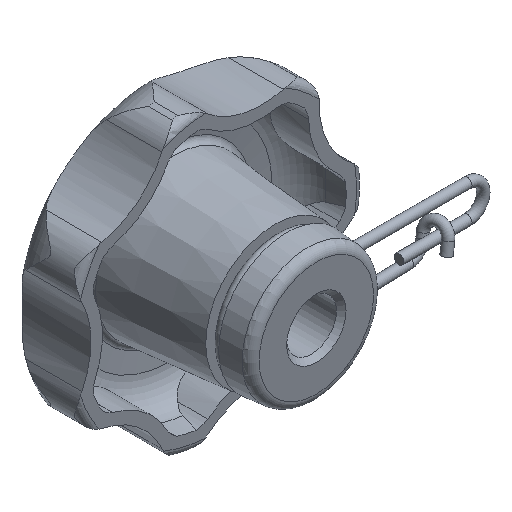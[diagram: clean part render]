
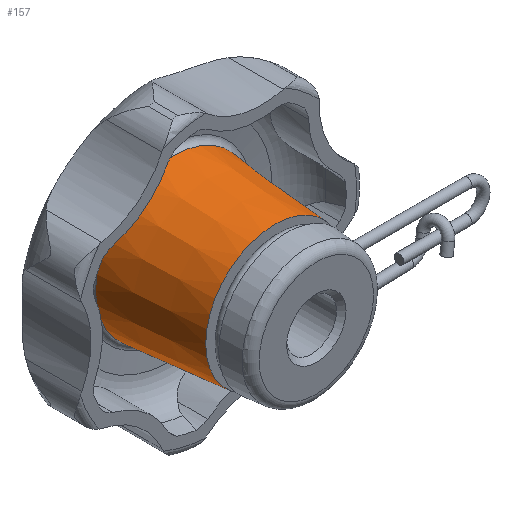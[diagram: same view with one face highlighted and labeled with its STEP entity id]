
A CAD part, isometric view. The second image highlights one B-rep face of the part: STEP entity #157.
In plain terms, the highlighted conical face has half-angle 5 degrees and reference radius 13.109 mm.
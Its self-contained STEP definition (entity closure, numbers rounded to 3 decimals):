
#157 = ADVANCED_FACE( '', ( #360, #361 ), #362, .T. );
#360 = FACE_BOUND( '', #576, .T. );
#361 = FACE_OUTER_BOUND( '', #577, .T. );
#362 = CONICAL_SURFACE( '', #578, 13.109, 0.087 );
#576 = EDGE_LOOP( '', ( #1249 ) );
#577 = EDGE_LOOP( '', ( #1250 ) );
#578 = AXIS2_PLACEMENT_3D( '', #1251, #1252, #1253 );
#1249 = ORIENTED_EDGE( '', *, *, #1540, .F. );
#1250 = ORIENTED_EDGE( '', *, *, #1539, .T. );
#1251 = CARTESIAN_POINT( '', ( 0., 24.053, 0. ) );
#1252 = DIRECTION( '', ( 0., 1., 0. ) );
#1253 = DIRECTION( '', ( 0., 0., 1. ) );
#1539 = EDGE_CURVE( '', #1909, #1909, #1910, .T. );
#1540 = EDGE_CURVE( '', #1911, #1911, #1912, .T. );
#1909 = VERTEX_POINT( '', #3218 );
#1910 = CIRCLE( '', #3219, 13.109 );
#1911 = VERTEX_POINT( '', #3220 );
#1912 = CIRCLE( '', #3221, 11.617 );
#3218 = CARTESIAN_POINT( '', ( 0., 24.053, -13.109 ) );
#3219 = AXIS2_PLACEMENT_3D( '', #3580, #3581, #3582 );
#3220 = CARTESIAN_POINT( '', ( 0., 7., -11.617 ) );
#3221 = AXIS2_PLACEMENT_3D( '', #3583, #3584, #3585 );
#3580 = CARTESIAN_POINT( '', ( 0., 24.053, 0. ) );
#3581 = DIRECTION( '', ( 0., -1., 0. ) );
#3582 = DIRECTION( '', ( 0., 0., -1. ) );
#3583 = CARTESIAN_POINT( '', ( 0., 7., 0. ) );
#3584 = DIRECTION( '', ( 0., -1., 0. ) );
#3585 = DIRECTION( '', ( 0., 0., -1. ) );
